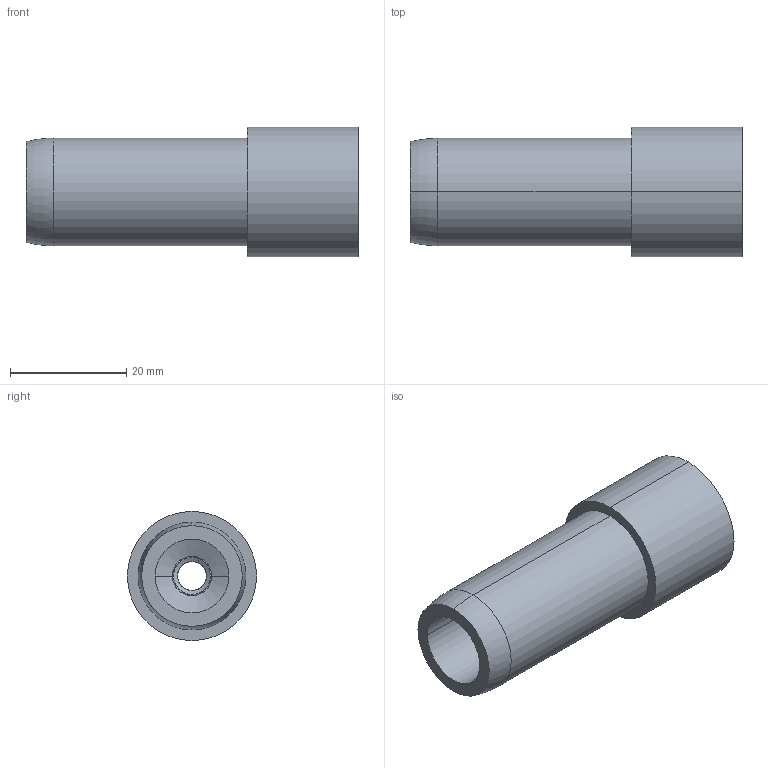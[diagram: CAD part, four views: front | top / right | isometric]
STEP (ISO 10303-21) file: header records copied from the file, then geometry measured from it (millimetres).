
FILE_DESCRIPTION (( 'STEP AP214' ), '1' );
FILE_NAME ('DRP-002-0527-00.STEP', '2013-12-20T17:34:33', ( 'ydmin' ), ( 'Microsoft' ), 'SwSTEP 2.0', 'SolidWorks 2013', '' );
FILE_SCHEMA (( 'AUTOMOTIVE_DESIGN' ));
Length unit declared in the file: inch
Products named in the file (1): DRP-002-0527-00
Bounding box: 57.15 x 22.23 x 22.23 mm (x, y, z)
Volume: 12154.9 mm3; surface area: 6969.4 mm2
Topology: 2 solids, 2 shells, 25 faces, 56 edges, 36 vertices
Faces by surface type: bspline 8, cylinder 8, plane 5, torus 2, cone 2
Entity records: 4488 total; most frequent: CARTESIAN_POINT 3582, ORIENTED_EDGE 112, DIRECTION 106, EDGE_CURVE 56, AXIS2_PLACEMENT_3D 40, VERTEX_POINT 36, DIMENSIONAL_EXPONENTS 29, UNCERTAINTY_MEASURE_WITH_UNIT 29
